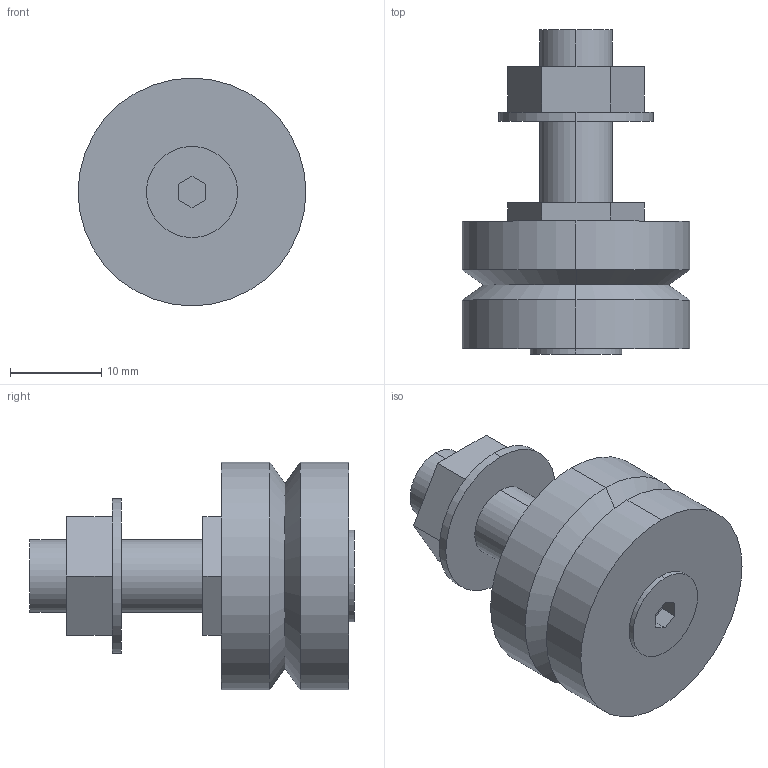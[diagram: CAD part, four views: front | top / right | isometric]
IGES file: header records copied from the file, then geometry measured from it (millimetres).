
Start section: 3D InterOp IGES (v. 2019 1.0.2), Spatial Corp. Copyright (c) 1999-2017.
Global section: file name: LJ 25 C.igs; native system: Spatial Corp.; preprocessor: 3D InterOp GENERIC/IGES 3.0; author: Noname; organization: Noname; date: 20220628.165351; units: millimetre
Bounding box: 25 x 35.6 x 25 mm (x, y, z)
Surface area: 3320.2 mm2 (no closed solid volume)
Topology: 0 solids, 0 shells, 43 faces, 192 edges, 192 vertices
Faces by surface type: extrusion 27, revolution 16
